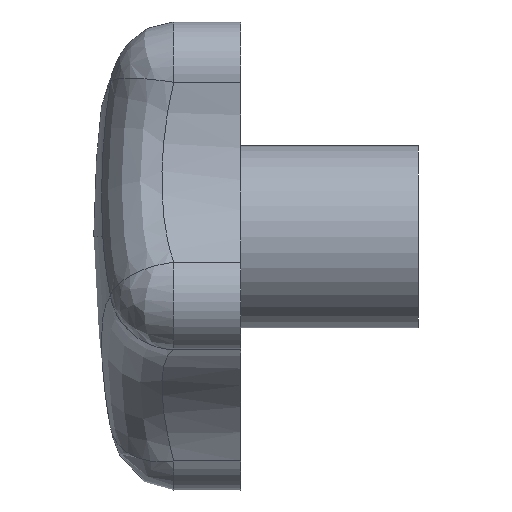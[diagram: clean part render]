
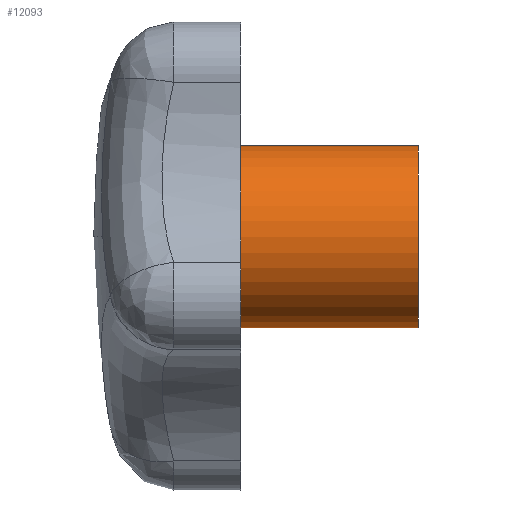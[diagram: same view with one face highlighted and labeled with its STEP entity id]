
A CAD part, left-side view. The second image highlights one B-rep face of the part: STEP entity #12093.
In plain terms, the highlighted cylindrical face has radius 9 mm (diameter 18 mm), a partial arc.
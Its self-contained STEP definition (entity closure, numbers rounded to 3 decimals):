
#4789 = DIRECTION ( 'NONE',  ( 0., 0., -1. ) ) ;
#4790 = DIRECTION ( 'NONE',  ( 0., -1., 0. ) ) ;
#4791 = AXIS2_PLACEMENT_3D ( 'NONE', #4793, #4790, #4789 ) ;
#4793 = CARTESIAN_POINT ( 'NONE',  ( 0., 500000., 0. ) ) ;
#4794 = CYLINDRICAL_SURFACE ( 'NONE', #4791, 9. ) ;
#4795 = FACE_OUTER_BOUND ( 'NONE', #12094, .T. ) ;
#4796 = DIRECTION ( 'NONE',  ( 0., 0., 1. ) ) ;
#4797 = DIRECTION ( 'NONE',  ( 0., 1., 0. ) ) ;
#4798 = CARTESIAN_POINT ( 'NONE',  ( 0., -17.5, 0. ) ) ;
#4799 = AXIS2_PLACEMENT_3D ( 'NONE', #4798, #4797, #4796 ) ;
#4800 = CIRCLE ( 'NONE', #4799, 9. ) ;
#6988 = VERTEX_POINT ( 'NONE', #7395 ) ;
#6990 = EDGE_CURVE ( 'NONE', #6988, #6991, #7394, .T. ) ;
#6991 = VERTEX_POINT ( 'NONE', #7390 ) ;
#7034 = VERTEX_POINT ( 'NONE', #7489 ) ;
#7036 = EDGE_CURVE ( 'NONE', #7037, #7034, #7488, .T. ) ;
#7037 = VERTEX_POINT ( 'NONE', #7484 ) ;
#7075 = VERTEX_POINT ( 'NONE', #7620 ) ;
#7077 = EDGE_CURVE ( 'NONE', #6988, #7075, #7618, .T. ) ;
#7083 = EDGE_CURVE ( 'NONE', #7075, #7037, #7668, .T. ) ;
#7390 = CARTESIAN_POINT ( 'NONE',  ( 0., -17.5, 9. ) ) ;
#7391 = DIRECTION ( 'NONE',  ( 0., -1., 0. ) ) ;
#7392 = VECTOR ( 'NONE', #7391, 1000. ) ;
#7393 = CARTESIAN_POINT ( 'NONE',  ( 0., 500000., 9. ) ) ;
#7394 = LINE ( 'NONE', #7393, #7392 ) ;
#7395 = CARTESIAN_POINT ( 'NONE',  ( 0., 12.122, 9. ) ) ;
#7484 = CARTESIAN_POINT ( 'NONE',  ( 0., 12.122, -9. ) ) ;
#7485 = DIRECTION ( 'NONE',  ( 0., -1., 0. ) ) ;
#7486 = VECTOR ( 'NONE', #7485, 1000. ) ;
#7487 = CARTESIAN_POINT ( 'NONE',  ( 0., 500000., -9. ) ) ;
#7488 = LINE ( 'NONE', #7487, #7486 ) ;
#7489 = CARTESIAN_POINT ( 'NONE',  ( 0., -17.5, -9. ) ) ;
#7608 = CARTESIAN_POINT ( 'NONE',  ( 0., 12.122, 0. ) ) ;
#7614 = DIRECTION ( 'NONE',  ( 0., 0., -1. ) ) ;
#7615 = DIRECTION ( 'NONE',  ( 0., -1., 0. ) ) ;
#7616 = CARTESIAN_POINT ( 'NONE',  ( 0., 12.122, 0. ) ) ;
#7617 = AXIS2_PLACEMENT_3D ( 'NONE', #7616, #7615, #7614 ) ;
#7618 = CIRCLE ( 'NONE', #7617, 9. ) ;
#7620 = CARTESIAN_POINT ( 'NONE',  ( -9., 12.122, 0. ) ) ;
#7665 = DIRECTION ( 'NONE',  ( 0., 0., -1. ) ) ;
#7666 = DIRECTION ( 'NONE',  ( 0., -1., 0. ) ) ;
#7667 = AXIS2_PLACEMENT_3D ( 'NONE', #7608, #7666, #7665 ) ;
#7668 = CIRCLE ( 'NONE', #7667, 9. ) ;
#12084 = ORIENTED_EDGE ( 'NONE', *, *, #7083, .T. ) ;
#12085 = EDGE_CURVE ( 'NONE', #7034, #6991, #4800, .T. ) ;
#12087 = ORIENTED_EDGE ( 'NONE', *, *, #6990, .F. ) ;
#12091 = ORIENTED_EDGE ( 'NONE', *, *, #12085, .T. ) ;
#12092 = ORIENTED_EDGE ( 'NONE', *, *, #7036, .T. ) ;
#12093 = ADVANCED_FACE ( 'NONE', ( #4795 ), #4794, .T. ) ;
#12094 = EDGE_LOOP ( 'NONE', ( #12087, #12095, #12084, #12092, #12091 ) ) ;
#12095 = ORIENTED_EDGE ( 'NONE', *, *, #7077, .T. ) ;
